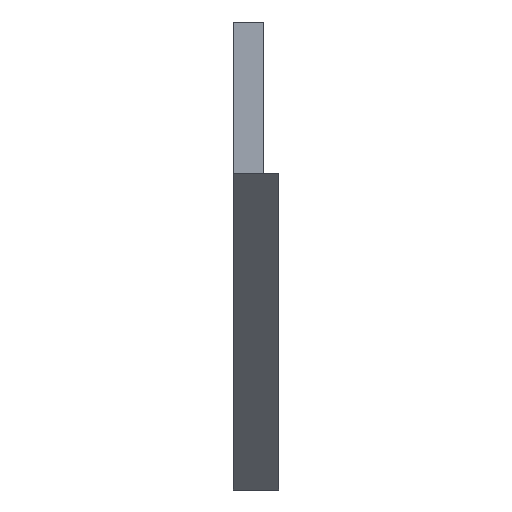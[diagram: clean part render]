
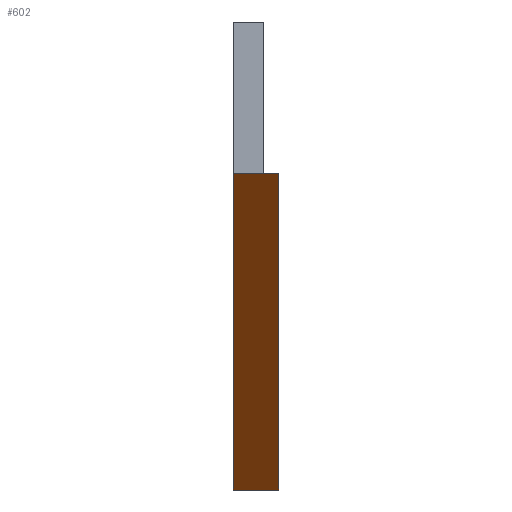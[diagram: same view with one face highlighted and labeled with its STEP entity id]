
A CAD part, front view. The second image highlights one B-rep face of the part: STEP entity #602.
In plain terms, the highlighted planar face has unit normal (0, -0.719, -0.695).
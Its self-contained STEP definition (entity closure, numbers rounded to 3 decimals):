
#34 = VECTOR ( 'NONE', #715, 1000. ) ;
#119 = CARTESIAN_POINT ( 'NONE',  ( 21., -29.482, -28.479 ) ) ;
#125 = DIRECTION ( 'NONE',  ( 0., -0.695, 0.719 ) ) ;
#260 = LINE ( 'NONE', #2051, #1220 ) ;
#305 = DIRECTION ( 'NONE',  ( 0., 0.695, -0.719 ) ) ;
#399 = ORIENTED_EDGE ( 'NONE', *, *, #1681, .T. ) ;
#510 = CARTESIAN_POINT ( 'NONE',  ( -6., 101.209, -163.776 ) ) ;
#523 = ORIENTED_EDGE ( 'NONE', *, *, #1042, .T. ) ;
#562 = VERTEX_POINT ( 'NONE', #1059 ) ;
#596 = VECTOR ( 'NONE', #125, 1000. ) ;
#602 = ADVANCED_FACE ( 'NONE', ( #1094 ), #1068, .T. ) ;
#619 = EDGE_CURVE ( 'NONE', #2332, #2284, #1600, .T. ) ;
#715 = DIRECTION ( 'NONE',  ( 0., -0.695, 0.719 ) ) ;
#746 = CARTESIAN_POINT ( 'NONE',  ( -21., 0., -59. ) ) ;
#807 = DIRECTION ( 'NONE',  ( -1., 0., 0. ) ) ;
#871 = CARTESIAN_POINT ( 'NONE',  ( 0., 0., -59. ) ) ;
#892 = CARTESIAN_POINT ( 'NONE',  ( -6., 0., -59. ) ) ;
#963 = VECTOR ( 'NONE', #807, 1000. ) ;
#972 = AXIS2_PLACEMENT_3D ( 'NONE', #119, #1456, #305 ) ;
#1042 = EDGE_CURVE ( 'NONE', #562, #2284, #2077, .T. ) ;
#1043 = LINE ( 'NONE', #1667, #34 ) ;
#1059 = CARTESIAN_POINT ( 'NONE',  ( -11., 0., -59. ) ) ;
#1068 = PLANE ( 'NONE',  #972 ) ;
#1094 = FACE_OUTER_BOUND ( 'NONE', #2047, .T. ) ;
#1148 = VERTEX_POINT ( 'NONE', #892 ) ;
#1220 = VECTOR ( 'NONE', #1872, 1000. ) ;
#1456 = DIRECTION ( 'NONE',  ( 0., -0.719, -0.695 ) ) ;
#1461 = LINE ( 'NONE', #1572, #963 ) ;
#1572 = CARTESIAN_POINT ( 'NONE',  ( 21., 101.209, -163.776 ) ) ;
#1598 = EDGE_CURVE ( 'NONE', #2364, #2332, #1461, .T. ) ;
#1600 = LINE ( 'NONE', #2409, #596 ) ;
#1619 = ORIENTED_EDGE ( 'NONE', *, *, #1598, .F. ) ;
#1662 = ORIENTED_EDGE ( 'NONE', *, *, #2400, .T. ) ;
#1667 = CARTESIAN_POINT ( 'NONE',  ( -6., -29.482, -28.479 ) ) ;
#1681 = EDGE_CURVE ( 'NONE', #1148, #562, #260, .T. ) ;
#1872 = DIRECTION ( 'NONE',  ( -1., 0., 0. ) ) ;
#2034 = ORIENTED_EDGE ( 'NONE', *, *, #619, .F. ) ;
#2047 = EDGE_LOOP ( 'NONE', ( #1619, #1662, #399, #523, #2034 ) ) ;
#2051 = CARTESIAN_POINT ( 'NONE',  ( 0., 0., -59. ) ) ;
#2077 = LINE ( 'NONE', #871, #2138 ) ;
#2089 = CARTESIAN_POINT ( 'NONE',  ( -21., 101.209, -163.776 ) ) ;
#2138 = VECTOR ( 'NONE', #2381, 1000. ) ;
#2284 = VERTEX_POINT ( 'NONE', #746 ) ;
#2332 = VERTEX_POINT ( 'NONE', #2089 ) ;
#2364 = VERTEX_POINT ( 'NONE', #510 ) ;
#2381 = DIRECTION ( 'NONE',  ( -1., 0., 0. ) ) ;
#2400 = EDGE_CURVE ( 'NONE', #2364, #1148, #1043, .T. ) ;
#2409 = CARTESIAN_POINT ( 'NONE',  ( -21., -29.482, -28.479 ) ) ;
